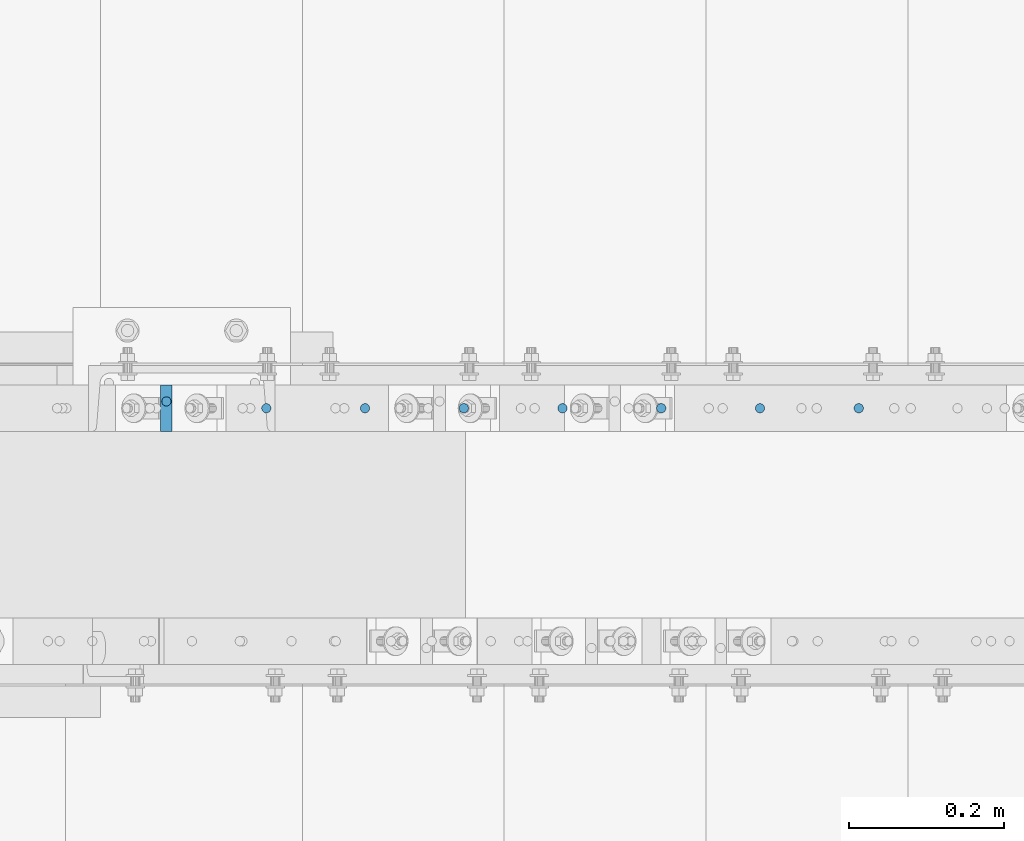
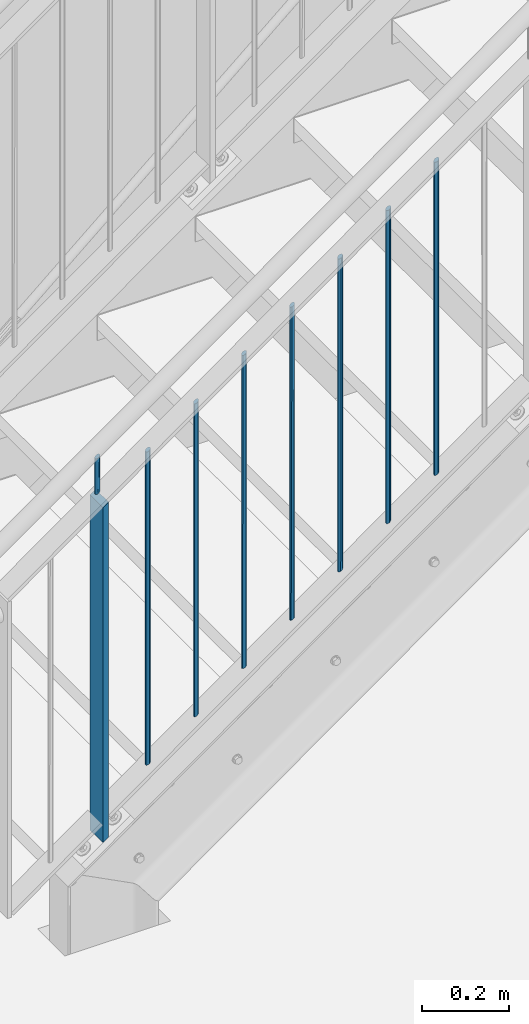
# One storey, part 42 of 831: 9 columns.
"""IFC2X3 building model written with IfcOpenShell, lengths in millimetres."""

from ifc_helpers import new_model, entity, si_unit, converted_unit, frame, origin, origin_with_axes, origin_2d, place, context, project, spatial, rectangle, circle, extrude, clip, halfspace, material, element, save


model = new_model("IFC2X3")

# Units and contexts
model_context = context("Model", 3, precision=1e-09, world=origin_with_axes())
ifc_project = project(units=[si_unit("LENGTHUNIT", "METRE", prefix="MILLI"), si_unit("AREAUNIT", "SQUARE_METRE"), si_unit("VOLUMEUNIT", "CUBIC_METRE"), converted_unit("PLANEANGLEUNIT", "DEGREE", entity("IfcPlaneAngleMeasure", 0.01745329), si_unit("PLANEANGLEUNIT", "RADIAN"), dimensions=[0, 0, 0, 0, 0, 0, 0])], contexts=[model_context])

# Site, building, storey
site_placement = place(None, origin_with_axes())
site = spatial("IfcSite", under=ifc_project, at=site_placement, Name="Site", CompositionType="ELEMENT")
building_placement = place(site_placement, origin_with_axes())
building = spatial("IfcBuilding", under=site, at=building_placement, Name="Struktur 1", CompositionType="ELEMENT")
storey_placement = place(building_placement, origin_with_axes())
storey = spatial("IfcBuildingStorey", under=building, at=storey_placement, Name="Default Storey", CompositionType="ELEMENT", Elevation=0.0)

# Columns
ifc_material = material(Name="S235JR")
column_1_placement = place(None, frame((5321.714323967, 6091.736971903, 1615.281429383), z_axis=(0.0, 0.0, 1.0), x_axis=(1.0, 0.0, 0.0)))
element("IfcColumn", 1, at=column_1_placement, inside=storey, material=ifc_material, Name="Railing_Post_Stair#0", ObjectType="Railing_Post_Stair#0", context=model_context, shape_type="Clipping", body=[
    clip(clip(extrude(rectangle(XDim=15.0, YDim=60.0, at=origin_2d()), origin(), (0.0, 0.0, -1.0), 1013.069146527), halfspace(frame((-3834.111158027, -6091.736971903, -3704.778056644), z_axis=(-0.579973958, 0.0, 0.814635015), x_axis=(0.0, -1.0, 0.0)), True)), halfspace(frame((-4276.882425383, -6091.736971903, -3082.858790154), z_axis=(0.579973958, 0.0, -0.814635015), x_axis=(0.0, 1.0, 0.0)), True)),
])
column_2_placement = place(None, frame((5450.384323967, 6091.736971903, 1679.343539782), z_axis=(0.0, 0.0, 1.0), x_axis=(1.0, 0.0, 0.0)))
element("IfcColumn", 2, at=column_2_placement, inside=storey, material=ifc_material, Name="Railing_Picket_Stair#0", ObjectType="Railing_Picket_Stair#0", context=model_context, shape_type="Clipping", body=[
    clip(clip(extrude(circle(Radius=6.0, at=origin_2d()), origin(), (0.0, 0.0, -1.0), 896.604693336), halfspace(frame((-4405.552425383, -6091.736971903, -3146.920900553), z_axis=(0.579973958, 0.0, -0.814635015), x_axis=(0.0, 1.0, 0.0)), True)), halfspace(frame((-3991.779855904, -6091.736971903, -3728.108416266), z_axis=(-0.579973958, 0.0, 0.814635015), x_axis=(0.0, -1.0, 0.0)), True)),
])
column_3_placement = place(None, frame((5577.550008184, 6091.736971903, 1769.878299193), z_axis=(0.0, 0.0, 1.0), x_axis=(1.0, 0.0, 0.0)))
element("IfcColumn", 3, at=column_3_placement, inside=storey, material=ifc_material, Name="Railing_Picket_Stair#1", ObjectType="Railing_Picket_Stair#1", context=model_context, shape_type="Clipping", body=[
    clip(clip(extrude(circle(Radius=6.0, at=origin_2d()), origin(), (0.0, 0.0, -1.0), 896.604693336), halfspace(frame((-4532.718109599, -6091.736971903, -3237.455659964), z_axis=(0.579973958, 0.0, -0.814635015), x_axis=(0.0, 1.0, 0.0)), True)), halfspace(frame((-4118.94554012, -6091.736971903, -3818.643175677), z_axis=(-0.579973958, 0.0, 0.814635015), x_axis=(0.0, -1.0, 0.0)), True)),
])
column_4_placement = place(None, frame((5704.7156924, 6091.736971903, 1860.413058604), z_axis=(0.0, 0.0, 1.0), x_axis=(1.0, 0.0, 0.0)))
element("IfcColumn", 4, at=column_4_placement, inside=storey, material=ifc_material, Name="Railing_Picket_Stair#2", ObjectType="Railing_Picket_Stair#2", context=model_context, shape_type="Clipping", body=[
    clip(clip(extrude(circle(Radius=6.0, at=origin_2d()), origin(), (0.0, 0.0, -1.0), 896.604693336), halfspace(frame((-4659.883793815, -6091.736971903, -3327.990419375), z_axis=(0.579973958, 0.0, -0.814635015), x_axis=(0.0, 1.0, 0.0)), True)), halfspace(frame((-4246.111224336, -6091.736971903, -3909.177935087), z_axis=(-0.579973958, 0.0, 0.814635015), x_axis=(0.0, -1.0, 0.0)), True)),
])
column_5_placement = place(None, frame((5831.881376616, 6091.736971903, 1950.947818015), z_axis=(0.0, 0.0, 1.0), x_axis=(1.0, 0.0, 0.0)))
element("IfcColumn", 5, at=column_5_placement, inside=storey, material=ifc_material, Name="Railing_Picket_Stair#3", ObjectType="Railing_Picket_Stair#3", context=model_context, shape_type="Clipping", body=[
    clip(clip(extrude(circle(Radius=6.0, at=origin_2d()), origin(), (0.0, 0.0, -1.0), 896.604693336), halfspace(frame((-4787.049478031, -6091.736971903, -3418.525178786), z_axis=(0.579973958, 0.0, -0.814635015), x_axis=(0.0, 1.0, 0.0)), True)), halfspace(frame((-4373.276908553, -6091.736971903, -3999.712694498), z_axis=(-0.579973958, 0.0, 0.814635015), x_axis=(0.0, -1.0, 0.0)), True)),
])
column_6_placement = place(None, frame((5959.047060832, 6091.736971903, 2041.482577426), z_axis=(0.0, 0.0, 1.0), x_axis=(1.0, 0.0, 0.0)))
element("IfcColumn", 6, at=column_6_placement, inside=storey, material=ifc_material, Name="Railing_Picket_Stair#4", ObjectType="Railing_Picket_Stair#4", context=model_context, shape_type="Clipping", body=[
    clip(clip(extrude(circle(Radius=6.0, at=origin_2d()), origin(), (0.0, 0.0, -1.0), 896.604693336), halfspace(frame((-4914.215162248, -6091.736971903, -3509.059938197), z_axis=(0.579973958, 0.0, -0.814635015), x_axis=(0.0, 1.0, 0.0)), True)), halfspace(frame((-4500.442592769, -6091.736971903, -4090.247453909), z_axis=(-0.579973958, 0.0, 0.814635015), x_axis=(0.0, -1.0, 0.0)), True)),
])
column_7_placement = place(None, frame((6086.212745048, 6091.736971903, 2132.017336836), z_axis=(0.0, 0.0, 1.0), x_axis=(1.0, 0.0, 0.0)))
element("IfcColumn", 7, at=column_7_placement, inside=storey, material=ifc_material, Name="Railing_Picket_Stair#5", ObjectType="Railing_Picket_Stair#5", context=model_context, shape_type="Clipping", body=[
    clip(clip(extrude(circle(Radius=6.0, at=origin_2d()), origin(), (0.0, 0.0, -1.0), 896.604693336), halfspace(frame((-5041.380846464, -6091.736971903, -3599.594697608), z_axis=(0.579973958, 0.0, -0.814635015), x_axis=(0.0, 1.0, 0.0)), True)), halfspace(frame((-4627.608276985, -6091.736971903, -4180.78221332), z_axis=(-0.579973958, 0.0, 0.814635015), x_axis=(0.0, -1.0, 0.0)), True)),
])
column_8_placement = place(None, frame((6213.378429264, 6091.736971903, 2222.552096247), z_axis=(0.0, 0.0, 1.0), x_axis=(1.0, 0.0, 0.0)))
element("IfcColumn", 8, at=column_8_placement, inside=storey, material=ifc_material, Name="Railing_Picket_Stair#6", ObjectType="Railing_Picket_Stair#6", context=model_context, shape_type="Clipping", body=[
    clip(clip(extrude(circle(Radius=6.0, at=origin_2d()), origin(), (0.0, 0.0, -1.0), 896.604693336), halfspace(frame((-5168.54653068, -6091.736971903, -3690.129457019), z_axis=(0.579973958, 0.0, -0.814635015), x_axis=(0.0, 1.0, 0.0)), True)), halfspace(frame((-4754.773961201, -6091.736971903, -4271.316972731), z_axis=(-0.579973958, 0.0, 0.814635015), x_axis=(0.0, -1.0, 0.0)), True)),
])
column_9_placement = place(None, frame((5321.714323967, 6100.536971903, 1700.013228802), z_axis=(0.0, 0.0, 1.0), x_axis=(0.0, -1.0, 0.0)))
element("IfcColumn", 9, at=column_9_placement, inside=storey, material=ifc_material, Name="Bar#0", ObjectType="Bar#0", context=model_context, shape_type="Clipping", body=[
    clip(clip(extrude(circle(Radius=6.0, at=origin_2d()), origin(), (0.0, 0.0, -1.0), 120.832105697), halfspace(frame((6100.536971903, -4282.683324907, -3159.442610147), z_axis=(0.0, -0.579973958, 0.814635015), x_axis=(1.0, 0.0, 0.0)), True)), halfspace(frame((6100.536971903, -4329.928874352, -3093.081218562), z_axis=(0.0, 0.579973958, -0.814635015), x_axis=(-1.0, 0.0, 0.0)), True)),
])

save(model, "model.ifc")
